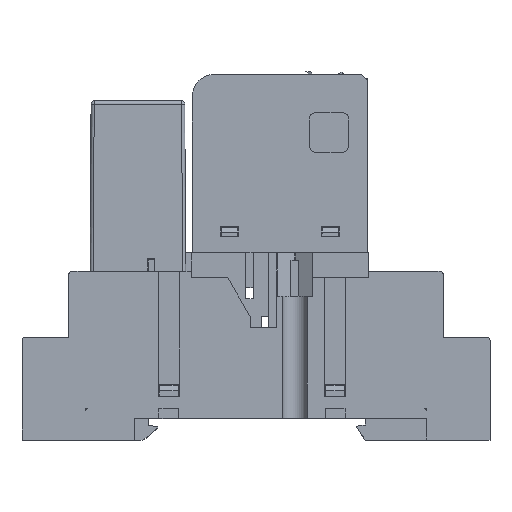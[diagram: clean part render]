
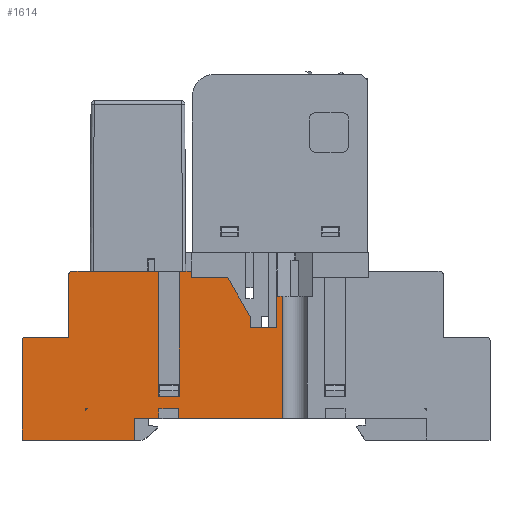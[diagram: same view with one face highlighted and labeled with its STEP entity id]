
A CAD part, top view. The second image highlights one B-rep face of the part: STEP entity #1614.
In plain terms, the highlighted planar face has unit normal (0, 0, 1).
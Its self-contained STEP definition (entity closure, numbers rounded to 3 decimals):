
#1614=ADVANCED_FACE('',(#27499,#27501),#27503,.T.);
#27499=FACE_BOUND('',#27500,.T.);
#27500=EDGE_LOOP('',(#51462,#51463,#51464,#51465,#51466,#51467,#51468,#51469,#51470,
#51471,#51472,#51473,#51474,#51475,#51476,#51477,#51478,#51479,#51480,#51481,#51482,
#51483,#51484,#51485,#51486));
#27501=FACE_BOUND('',#27502,.T.);
#27502=EDGE_LOOP('',(#51487,#51488,#51489));
#27503=PLANE('',#27504);
#27504=AXIS2_PLACEMENT_3D('',#27505,#27506,#27507);
#27505=CARTESIAN_POINT('',(-43.65,0.,15.));
#27506=DIRECTION('',(0.,0.,1.));
#27507=DIRECTION('',(1.,0.,0.));
#51462=ORIENTED_EDGE('',*,*,#67168,.T.);
#51463=ORIENTED_EDGE('',*,*,#67169,.T.);
#51464=ORIENTED_EDGE('',*,*,#67170,.T.);
#51465=ORIENTED_EDGE('',*,*,#66769,.F.);
#51466=ORIENTED_EDGE('',*,*,#67167,.F.);
#51467=ORIENTED_EDGE('',*,*,#67171,.T.);
#51468=ORIENTED_EDGE('',*,*,#67172,.T.);
#51469=ORIENTED_EDGE('',*,*,#67173,.F.);
#51470=ORIENTED_EDGE('',*,*,#67174,.F.);
#51471=ORIENTED_EDGE('',*,*,#67175,.T.);
#51472=ORIENTED_EDGE('',*,*,#67176,.T.);
#51473=ORIENTED_EDGE('',*,*,#67177,.F.);
#51474=ORIENTED_EDGE('',*,*,#67178,.T.);
#51475=ORIENTED_EDGE('',*,*,#67179,.T.);
#51476=ORIENTED_EDGE('',*,*,#67180,.T.);
#51477=ORIENTED_EDGE('',*,*,#67181,.F.);
#51478=ORIENTED_EDGE('',*,*,#67182,.T.);
#51479=ORIENTED_EDGE('',*,*,#67183,.F.);
#51480=ORIENTED_EDGE('',*,*,#67184,.T.);
#51481=ORIENTED_EDGE('',*,*,#67185,.T.);
#51482=ORIENTED_EDGE('',*,*,#67186,.T.);
#51483=ORIENTED_EDGE('',*,*,#67187,.T.);
#51484=ORIENTED_EDGE('',*,*,#67188,.T.);
#51485=ORIENTED_EDGE('',*,*,#67189,.T.);
#51486=ORIENTED_EDGE('',*,*,#66773,.F.);
#51487=ORIENTED_EDGE('',*,*,#67190,.T.);
#51488=ORIENTED_EDGE('',*,*,#67191,.T.);
#51489=ORIENTED_EDGE('',*,*,#67192,.F.);
#66769=EDGE_CURVE('',#75058,#75060,#75061,.T.);
#66773=EDGE_CURVE('',#75066,#75068,#75069,.T.);
#67167=EDGE_CURVE('',#75747,#75058,#75749,.F.);
#67168=EDGE_CURVE('',#75066,#75750,#75751,.F.);
#67169=EDGE_CURVE('',#75750,#75752,#75753,.F.);
#67170=EDGE_CURVE('',#75752,#75060,#75754,.F.);
#67171=EDGE_CURVE('',#75747,#75755,#75756,.F.);
#67172=EDGE_CURVE('',#75755,#75757,#75758,.T.);
#67173=EDGE_CURVE('',#75759,#75757,#75760,.F.);
#67174=EDGE_CURVE('',#75761,#75759,#75762,.T.);
#67175=EDGE_CURVE('',#75761,#75763,#75764,.T.);
#67176=EDGE_CURVE('',#75763,#75765,#75766,.T.);
#67177=EDGE_CURVE('',#75767,#75765,#75768,.T.);
#67178=EDGE_CURVE('',#75767,#75769,#75770,.F.);
#67179=EDGE_CURVE('',#75769,#75771,#75772,.F.);
#67180=EDGE_CURVE('',#75771,#75773,#75774,.F.);
#67181=EDGE_CURVE('',#75775,#75773,#75776,.T.);
#67182=EDGE_CURVE('',#75775,#75777,#75778,.T.);
#67183=EDGE_CURVE('',#75779,#75777,#75780,.T.);
#67184=EDGE_CURVE('',#75779,#75781,#75782,.F.);
#67185=EDGE_CURVE('',#75781,#75783,#75784,.F.);
#67186=EDGE_CURVE('',#75783,#75785,#75786,.F.);
#67187=EDGE_CURVE('',#75785,#75787,#75788,.F.);
#67188=EDGE_CURVE('',#75787,#75789,#75790,.F.);
#67189=EDGE_CURVE('',#75789,#75068,#75791,.F.);
#67190=EDGE_CURVE('',#75792,#75793,#75794,.F.);
#67191=EDGE_CURVE('',#75793,#75795,#75796,.F.);
#67192=EDGE_CURVE('',#75792,#75795,#75797,.F.);
#75058=VERTEX_POINT('',#88987);
#75060=VERTEX_POINT('',#88991);
#75061=LINE('',#88992,#88993);
#75066=VERTEX_POINT('',#89003);
#75068=VERTEX_POINT('',#89007);
#75069=LINE('',#89008,#89009);
#75747=VERTEX_POINT('',#90510);
#75749=CIRCLE('',#90514,0.5);
#75750=VERTEX_POINT('',#90518);
#75751=LINE('',#90519,#90520);
#75752=VERTEX_POINT('',#90522);
#75753=LINE('',#90523,#90524);
#75754=LINE('',#90526,#90527);
#75755=VERTEX_POINT('',#90529);
#75756=LINE('',#90530,#90531);
#75757=VERTEX_POINT('',#90533);
#75758=LINE('',#90534,#90535);
#75759=VERTEX_POINT('',#90537);
#75760=CIRCLE('',#90538,0.5);
#75761=VERTEX_POINT('',#90542);
#75762=LINE('',#90543,#90544);
#75763=VERTEX_POINT('',#90546);
#75764=LINE('',#90547,#90548);
#75765=VERTEX_POINT('',#90550);
#75766=LINE('',#90551,#90552);
#75767=VERTEX_POINT('',#90554);
#75768=LINE('',#90555,#90556);
#75769=VERTEX_POINT('',#90558);
#75770=LINE('',#90559,#90560);
#75771=VERTEX_POINT('',#90562);
#75772=LINE('',#90563,#90564);
#75773=VERTEX_POINT('',#90566);
#75774=LINE('',#90567,#90568);
#75775=VERTEX_POINT('',#90570);
#75776=LINE('',#90571,#90572);
#75777=VERTEX_POINT('',#90574);
#75778=LINE('',#90575,#90576);
#75779=VERTEX_POINT('',#90578);
#75780=LINE('',#90579,#90580);
#75781=VERTEX_POINT('',#90582);
#75782=LINE('',#90583,#90584);
#75783=VERTEX_POINT('',#90586);
#75784=LINE('',#90587,#90588);
#75785=VERTEX_POINT('',#90590);
#75786=LINE('',#90591,#90592);
#75787=VERTEX_POINT('',#90594);
#75788=LINE('',#90595,#90596);
#75789=VERTEX_POINT('',#90598);
#75790=LINE('',#90599,#90600);
#75791=LINE('',#90602,#90603);
#75792=VERTEX_POINT('',#90605);
#75793=VERTEX_POINT('',#90606);
#75794=LINE('',#90607,#90608);
#75795=VERTEX_POINT('',#90610);
#75796=LINE('',#90611,#90612);
#75797=CIRCLE('',#90614,0.3);
#88987=CARTESIAN_POINT('',(-35.65,27.,15.));
#88991=CARTESIAN_POINT('',(-21.85,27.,15.));
#88992=CARTESIAN_POINT('',(-35.65,27.,15.));
#88993=VECTOR('',#88994,1.);
#88994=DIRECTION('',(1.,0.,0.));
#89003=CARTESIAN_POINT('',(-18.45,27.,15.));
#89007=CARTESIAN_POINT('',(-16.55,27.,15.));
#89008=CARTESIAN_POINT('',(-18.45,27.,15.));
#89009=VECTOR('',#89010,1.);
#89010=DIRECTION('',(1.,0.,0.));
#90510=CARTESIAN_POINT('',(-36.15,26.5,15.));
#90514=AXIS2_PLACEMENT_3D('',#90515,#90516,#90517);
#90515=CARTESIAN_POINT('',(-35.65,26.5,15.));
#90516=DIRECTION('',(0.,-0.,1.));
#90517=DIRECTION('',(0.,1.,0.));
#90518=CARTESIAN_POINT('',(-18.45,7.,15.));
#90519=CARTESIAN_POINT('',(-18.45,7.,15.));
#90520=VECTOR('',#90521,1.);
#90521=DIRECTION('',(0.,1.,0.));
#90522=CARTESIAN_POINT('',(-21.85,7.,15.));
#90523=CARTESIAN_POINT('',(-21.85,7.,15.));
#90524=VECTOR('',#90525,1.);
#90525=DIRECTION('',(1.,0.,0.));
#90526=CARTESIAN_POINT('',(-21.85,27.,15.));
#90527=VECTOR('',#90528,1.);
#90528=DIRECTION('',(0.,-1.,0.));
#90529=CARTESIAN_POINT('',(-36.15,16.5,15.));
#90530=CARTESIAN_POINT('',(-36.15,16.5,15.));
#90531=VECTOR('',#90532,1.);
#90532=DIRECTION('',(0.,1.,0.));
#90533=CARTESIAN_POINT('',(-43.15,16.5,15.));
#90534=CARTESIAN_POINT('',(-36.15,16.5,15.));
#90535=VECTOR('',#90536,1.);
#90536=DIRECTION('',(-1.,0.,0.));
#90537=CARTESIAN_POINT('',(-43.65,16.,15.));
#90538=AXIS2_PLACEMENT_3D('',#90539,#90540,#90541);
#90539=CARTESIAN_POINT('',(-43.15,16.,15.));
#90540=DIRECTION('',(0.,-0.,1.));
#90541=DIRECTION('',(0.,1.,0.));
#90542=CARTESIAN_POINT('',(-43.65,0.,15.));
#90543=CARTESIAN_POINT('',(-43.65,0.,15.));
#90544=VECTOR('',#90545,1.);
#90545=DIRECTION('',(0.,1.,0.));
#90546=CARTESIAN_POINT('',(-25.65,0.,15.));
#90547=CARTESIAN_POINT('',(-43.65,0.,15.));
#90548=VECTOR('',#90549,1.);
#90549=DIRECTION('',(1.,0.,0.));
#90550=CARTESIAN_POINT('',(-25.65,3.5,15.));
#90551=CARTESIAN_POINT('',(-25.65,0.,15.));
#90552=VECTOR('',#90553,1.);
#90553=DIRECTION('',(0.,1.,0.));
#90554=CARTESIAN_POINT('',(-21.75,3.5,15.));
#90555=CARTESIAN_POINT('',(-21.75,3.5,15.));
#90556=VECTOR('',#90557,1.);
#90557=DIRECTION('',(-1.,0.,0.));
#90558=CARTESIAN_POINT('',(-21.75,5.,15.));
#90559=CARTESIAN_POINT('',(-21.75,5.,15.));
#90560=VECTOR('',#90561,1.);
#90561=DIRECTION('',(0.,-1.,0.));
#90562=CARTESIAN_POINT('',(-18.55,5.,15.));
#90563=CARTESIAN_POINT('',(-18.55,5.,15.));
#90564=VECTOR('',#90565,1.);
#90565=DIRECTION('',(-1.,0.,0.));
#90566=CARTESIAN_POINT('',(-18.55,3.5,15.));
#90567=CARTESIAN_POINT('',(-18.55,3.5,15.));
#90568=VECTOR('',#90569,1.);
#90569=DIRECTION('',(0.,1.,0.));
#90570=CARTESIAN_POINT('',(-2.,3.5,15.));
#90571=CARTESIAN_POINT('',(-2.,3.5,15.));
#90572=VECTOR('',#90573,1.);
#90573=DIRECTION('',(-1.,0.,0.));
#90574=CARTESIAN_POINT('',(-2.,23.,15.));
#90575=CARTESIAN_POINT('',(-2.,3.5,15.));
#90576=VECTOR('',#90577,1.);
#90577=DIRECTION('',(0.,1.,0.));
#90578=CARTESIAN_POINT('',(-2.9,23.,15.));
#90579=CARTESIAN_POINT('',(-2.9,23.,15.));
#90580=VECTOR('',#90581,1.);
#90581=DIRECTION('',(1.,0.,0.));
#90582=CARTESIAN_POINT('',(-2.9,18.,15.));
#90583=CARTESIAN_POINT('',(-2.9,18.,15.));
#90584=VECTOR('',#90585,1.);
#90585=DIRECTION('',(0.,1.,0.));
#90586=CARTESIAN_POINT('',(-7.15,18.,15.));
#90587=CARTESIAN_POINT('',(-7.15,18.,15.));
#90588=VECTOR('',#90589,1.);
#90589=DIRECTION('',(1.,0.,0.));
#90590=CARTESIAN_POINT('',(-7.15,19.8,15.));
#90591=CARTESIAN_POINT('',(-7.15,19.8,15.));
#90592=VECTOR('',#90593,1.);
#90593=DIRECTION('',(0.,-1.,0.));
#90594=CARTESIAN_POINT('',(-10.73,26.,15.));
#90595=CARTESIAN_POINT('',(-10.73,26.,15.));
#90596=VECTOR('',#90597,1.);
#90597=DIRECTION('',(0.5,-0.866,0.));
#90598=CARTESIAN_POINT('',(-16.55,26.,15.));
#90599=CARTESIAN_POINT('',(-16.55,26.,15.));
#90600=VECTOR('',#90601,1.);
#90601=DIRECTION('',(1.,0.,0.));
#90602=CARTESIAN_POINT('',(-16.55,27.,15.));
#90603=VECTOR('',#90604,1.);
#90604=DIRECTION('',(0.,-1.,0.));
#90605=CARTESIAN_POINT('',(-33.45,4.7,15.));
#90606=CARTESIAN_POINT('',(-33.45,5.,15.));
#90607=CARTESIAN_POINT('',(-33.45,5.,15.));
#90608=VECTOR('',#90609,1.);
#90609=DIRECTION('',(0.,-1.,0.));
#90610=CARTESIAN_POINT('',(-33.15,5.,15.));
#90611=CARTESIAN_POINT('',(-33.15,5.,15.));
#90612=VECTOR('',#90613,1.);
#90613=DIRECTION('',(-1.,0.,0.));
#90614=AXIS2_PLACEMENT_3D('',#90615,#90616,#90617);
#90615=CARTESIAN_POINT('',(-33.15,4.7,15.));
#90616=DIRECTION('',(0.,-0.,1.));
#90617=DIRECTION('',(0.,1.,0.));
